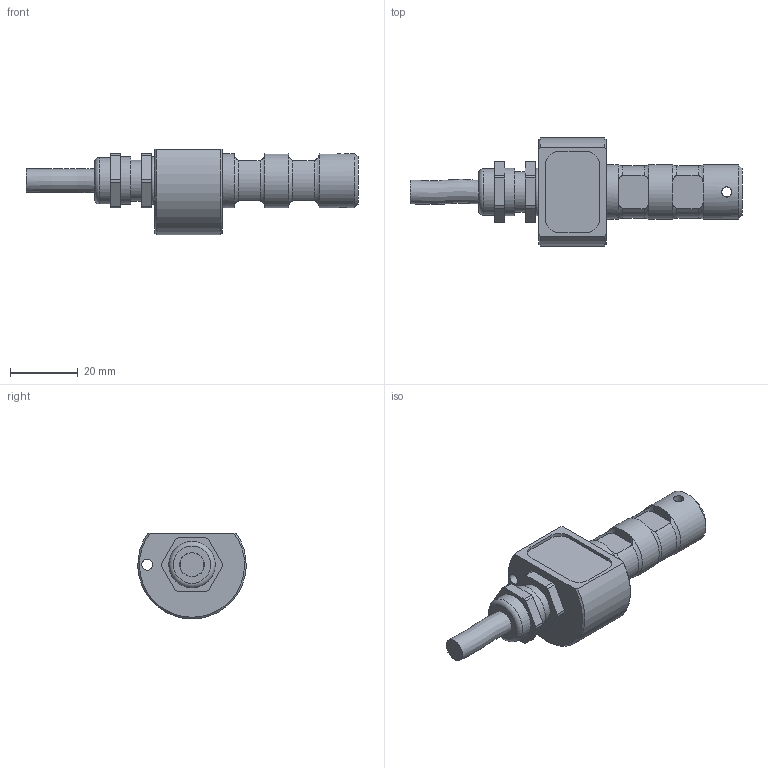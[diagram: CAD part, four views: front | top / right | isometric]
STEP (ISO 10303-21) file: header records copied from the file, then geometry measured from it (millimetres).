
FILE_DESCRIPTION(/* description */ ('Alibre Inc.'),/* implementation_level */ '2;1');
FILE_NAME(/* name */ 'export-CE0B6220-8AEC-4121-83CD-3B73F97012F8',/* time_stamp */ '2022-12-01T08:05:39+01:00',/* author */ (''),/* organization */ (''),/* preprocessor_version */ 'ST-DEVELOPER v17',/* originating_system */ 'Alibre',/* authorisation */ '');
FILE_SCHEMA (('CONFIG_CONTROL_DESIGN'));
Length unit declared in the file: millimetre
Products named in the file (6): ID_1
Bounding box: 97.95 x 31.96 x 25.33 mm (x, y, z)
Volume: 22561.5 mm3; surface area: 8751.7 mm2
Topology: 4 solids, 4 shells, 114 faces, 282 edges, 181 vertices
Faces by surface type: plane 51, cylinder 48, torus 10, cone 4, bspline 1
Full cylindrical faces by diameter (mm): 3 x1, 3.2 x1, 7 x1, 10.5 x1, 12 x2, 13.7 x1, 14 x1, 16 x3
Entity records: 3951 total; most frequent: CARTESIAN_POINT 1012, ORIENTED_EDGE 520, DIRECTION 393, EDGE_CURVE 260, VERTEX_POINT 176, AXIS2_PLACEMENT_3D 160, FACE_BOUND 142, EDGE_LOOP 141
